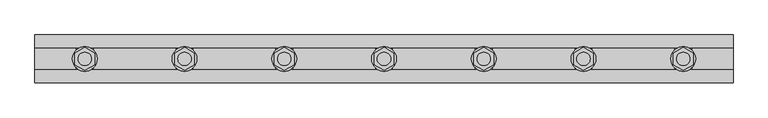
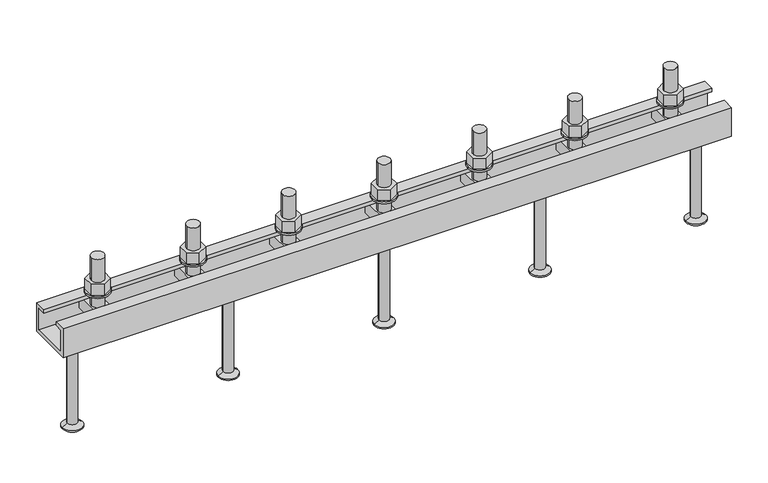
"""IFC4 building model written with IfcOpenShell, lengths in millimetres: fastener geometry, JTA-K JORDAHL® AnchorChannels : JTA-K L=1050 mm."""

import ifcopenshell
import ifcopenshell.guid

model = None  # the IFC model being written
_history = None  # IfcOwnerHistory: only IFC2X3 demands one
_inside = {}  # id of a spatial element -> (the spatial element, [elements in it])
_under = {}  # id of a project, library or spatial element -> (it, [spatial elements below it])
_declared = {}  # id of a project -> (the project, [libraries it declares])
_typed = {}  # id of a type object -> (the type object, [elements of that type])
_made_of = {}  # id of a material, layer set ... -> (it, [elements and type objects made of it])


def new_model(schema):
    """Start an empty IFC model of exactly this schema.

    Asked for "IFC4X3", IfcOpenShell would pick the latest addendum, in which some entities
    have other attributes; the version numbers below select the first issue.
    IFC2X3 requires an IfcOwnerHistory on every rooted entity: one is made here for all.
    """
    global model, _history
    if schema == "IFC4X3":
        model = ifcopenshell.file(schema_version=(4, 3, 0, 0))
    else:
        model = ifcopenshell.file(schema=schema)
    _inside.clear()
    _under.clear()
    _declared.clear()
    _typed.clear()
    _made_of.clear()
    _history = None
    if model.schema == "IFC2X3":
        org = make("IfcOrganization", Name="unknown")
        user = make(
            "IfcPersonAndOrganization",
            ThePerson=make("IfcPerson", FamilyName="unknown"),
            TheOrganization=org,
        )
        app = make(
            "IfcApplication",
            ApplicationDeveloper=org,
            Version="unknown",
            ApplicationFullName="unknown",
            ApplicationIdentifier="unknown",
        )
        _history = make(
            "IfcOwnerHistory",
            OwningUser=user,
            OwningApplication=app,
            ChangeAction="ADDED",
            CreationDate=0,
        )
    return model


def make(cls, **values):
    """One entity of the class cls with the attributes given. An attribute that is None is left unset."""
    return model.create_entity(
        cls, **{name: value for name, value in values.items() if value is not None}
    )


def rooted(cls, **values):
    """An entity with a GlobalId (a new one), such as an element, a storey or a relation."""
    return make(cls, GlobalId=ifcopenshell.guid.new(), OwnerHistory=_history, **values)


def si_unit(unit_type, name, prefix=None):
    """IfcSIUnit, for example si_unit("LENGTHUNIT", "METRE", prefix="MILLI")."""
    return make("IfcSIUnit", UnitType=unit_type, Prefix=prefix, Name=name)


def assignment(units):
    """IfcUnitAssignment: the units of a project."""
    return None if units is None else make("IfcUnitAssignment", Units=units)


def point(xyz):
    """IfcCartesianPoint."""
    return None if xyz is None else make("IfcCartesianPoint", Coordinates=xyz)


def direction(xyz):
    """IfcDirection."""
    return None if xyz is None else make("IfcDirection", DirectionRatios=xyz)


def frame(location, z_axis=None, x_axis=None):
    """IfcAxis2Placement3D, a coordinate frame: its origin and axes. An axis left out is left unset."""
    return make(
        "IfcAxis2Placement3D",
        Location=point(location),
        Axis=direction(z_axis),
        RefDirection=direction(x_axis),
    )


def frame_2d(location, x_axis=None):
    """IfcAxis2Placement2D, a coordinate frame in the plane: its origin and x axis."""
    return make(
        "IfcAxis2Placement2D", Location=point(location), RefDirection=direction(x_axis)
    )


def origin():
    """The frame at (0, 0, 0) with its axes left unset."""
    return frame((0.0, 0.0, 0.0))


def place(relative_to, where):
    """IfcLocalPlacement: puts the frame where relative to a parent placement (None: the world)."""
    return make(
        "IfcLocalPlacement", PlacementRelTo=relative_to, RelativePlacement=where
    )


def context(
    kind, dimensions, precision=None, world=None, true_north=None, identifier=None
):
    """IfcGeometricRepresentationContext, for example the 3D "Model" context."""
    return make(
        "IfcGeometricRepresentationContext",
        ContextIdentifier=identifier,
        ContextType=kind,
        CoordinateSpaceDimension=dimensions,
        Precision=precision,
        WorldCoordinateSystem=world,
        TrueNorth=true_north,
    )


def project(units=None, contexts=None):
    """IfcProject with its units and contexts."""
    return rooted(
        "IfcProject",
        Name="project",
        RepresentationContexts=contexts,
        UnitsInContext=assignment(units),
    )


def spatial(cls, under=None, at=None, **own):
    """A site, building, storey or space (cls), placed at a placement, below another one or the project."""
    s = rooted(cls, ObjectPlacement=at, **own)
    if under is not None:
        _under.setdefault(under.id(), (under, []))[1].append(s)
    return s


def polyline(points):
    """IfcPolyline through the points."""
    return make("IfcPolyline", Points=[point(p) for p in points])


def circle_curve(where, radius):
    """IfcCircle in the frame where."""
    return make("IfcCircle", Position=where, Radius=radius)


def trimmed(basis, trim1, trim2, sense, master):
    """IfcTrimmedCurve: the piece of a basis curve between two trims."""
    return make(
        "IfcTrimmedCurve",
        BasisCurve=basis,
        Trim1=trim1,
        Trim2=trim2,
        SenseAgreement=sense,
        MasterRepresentation=master,
    )


def segment(curve, same_sense, transition):
    """IfcCompositeCurveSegment."""
    return make(
        "IfcCompositeCurveSegment",
        Transition=transition,
        SameSense=same_sense,
        ParentCurve=curve,
    )


def composite_curve(segments, self_intersect=None):
    """IfcCompositeCurve: segments joined end to end."""
    return make("IfcCompositeCurve", Segments=segments, SelfIntersect=self_intersect)


def outline(outer, holes=None, kind="AREA"):
    """IfcArbitraryClosedProfileDef: a profile drawn as a closed curve; with holes, ...WithVoids."""
    if holes is None:
        return make("IfcArbitraryClosedProfileDef", ProfileType=kind, OuterCurve=outer)
    return make(
        "IfcArbitraryProfileDefWithVoids",
        ProfileType=kind,
        OuterCurve=outer,
        InnerCurves=holes,
    )


def extrude(swept, where, along, depth):
    """IfcExtrudedAreaSolid: the profile swept, set in the frame where, extruded along a direction by depth."""
    return make(
        "IfcExtrudedAreaSolid",
        SweptArea=swept,
        Position=where,
        ExtrudedDirection=direction(along),
        Depth=depth,
    )


def shape(context_of_items, identifier, shape_type, items):
    """IfcShapeRepresentation: the items that make up one representation, for example the "Body"."""
    return make(
        "IfcShapeRepresentation",
        ContextOfItems=context_of_items,
        RepresentationIdentifier=identifier,
        RepresentationType=shape_type,
        Items=items,
    )


def source(mapping_origin, context_of_items, identifier, shape_type, items):
    """IfcRepresentationMap: a shape defined once, which mapped items show again and again."""
    return make(
        "IfcRepresentationMap",
        MappingOrigin=mapping_origin,
        MappedRepresentation=shape(context_of_items, identifier, shape_type, items),
    )


def transform(
    local_origin,
    x_axis=None,
    y_axis=None,
    z_axis=None,
    scale=None,
    scale2=None,
    scale3=None,
    uniform=True,
):
    """IfcCartesianTransformationOperator3D, or its non-uniform kind. x_axis, y_axis, z_axis: its Axis1, 2, 3."""
    if uniform:
        return make(
            "IfcCartesianTransformationOperator3D",
            Axis1=direction(x_axis),
            Axis2=direction(y_axis),
            LocalOrigin=point(local_origin),
            Scale=scale,
            Axis3=direction(z_axis),
        )
    return make(
        "IfcCartesianTransformationOperator3DnonUniform",
        Axis1=direction(x_axis),
        Axis2=direction(y_axis),
        LocalOrigin=point(local_origin),
        Scale=scale,
        Axis3=direction(z_axis),
        Scale2=scale2,
        Scale3=scale3,
    )


def mapped(mapping_source, mapping_target):
    """IfcMappedItem: shows the shape of a source again, moved by a transform."""
    return make(
        "IfcMappedItem", MappingSource=mapping_source, MappingTarget=mapping_target
    )


def made_of(thing, what):
    """Note that an element or type object is made of a material, layer set ...; save() writes the relation."""
    if what is not None:
        _made_of.setdefault(what.id(), (what, []))[1].append(thing)
    return thing


def element(
    cls,
    number,
    at=None,
    inside=None,
    cuts=None,
    type_object=None,
    material=None,
    context=None,
    identifier="Body",
    shape_type=None,
    held_by="IfcProductDefinitionShape",
    body=None,
    shapes=None,
    **own,
):
    """One element of the class cls, such as IfcWall. Its Tag is "e" and its number.

    at: its placement. inside: the storey or other place that contains it. cuts: it is an
    opening in that element (IfcRelVoidsElement). A single representation is given by context,
    identifier, shape_type and body (its items); several are given by shapes. held_by: the class
    of the entity that holds the representations. save() writes the other relations.
    """
    e = rooted(cls, Tag="e%d" % number, ObjectPlacement=at, **own)
    if body is not None:
        shapes = [shape(context, identifier, shape_type, body)]
    if shapes is not None:
        e.Representation = make(held_by, Representations=shapes)
    if inside is not None:
        _inside.setdefault(inside.id(), (inside, []))[1].append(e)
    if cuts is not None:
        rooted(
            "IfcRelVoidsElement", RelatingBuildingElement=cuts, RelatedOpeningElement=e
        )
    if type_object is not None:
        _typed.setdefault(type_object.id(), (type_object, []))[1].append(e)
    return made_of(e, material)


def aggregate(whole, parts):
    """IfcRelAggregates: a whole, such as a stair, and the parts it consists of."""
    return rooted("IfcRelAggregates", RelatingObject=whole, RelatedObjects=parts)


def save(model, path):
    """Write the relations noted so far, then the file.

    IfcRelAggregates (storeys below a building ...), IfcRelContainedInSpatialStructure (elements
    in a storey), IfcRelDefinesByType, IfcRelAssociatesMaterial and IfcRelDeclares: one each for
    every whole, place, type object, material and project.
    """
    for whole, parts in _under.values():
        aggregate(whole, parts)
    for where, things in _inside.values():
        rooted(
            "IfcRelContainedInSpatialStructure",
            RelatedElements=things,
            RelatingStructure=where,
        )
    for kind, things in _typed.values():
        rooted("IfcRelDefinesByType", RelatedObjects=things, RelatingType=kind)
    for what, things in _made_of.values():
        rooted("IfcRelAssociatesMaterial", RelatedObjects=things, RelatingMaterial=what)
    for by, libraries in _declared.values():
        rooted("IfcRelDeclares", RelatingContext=by, RelatedDefinitions=libraries)
    model.write(path)


def plane_surface(at):
    """IfcPlane: the flat surface through the origin of the frame at, square to its z axis."""
    return make("IfcPlane", Position=at)


def cylinder_surface(at, radius):
    """IfcCylindricalSurface: all points at the distance radius from the z axis of the frame at."""
    return make("IfcCylindricalSurface", Position=at, Radius=radius)


def revolved_surface(curve, axis_point, axis_direction):
    """IfcSurfaceOfRevolution: the curve turned about the line through axis_point along axis_direction."""
    return make(
        "IfcSurfaceOfRevolution",
        SweptCurve=make("IfcArbitraryOpenProfileDef", ProfileType="CURVE", Curve=curve),
        AxisPosition=make("IfcAxis1Placement", Location=point(axis_point), Axis=direction(axis_direction)),
    )


def advanced_brep(points, edges, surfaces, faces):
    """IfcAdvancedBrep: a solid bounded by faces that lie on surfaces and meet in shared edges.

    An edge is (start, end): straight between two places in points (the first is 0);
    or (start, end, curve); or (start, end, curve, False) where it runs against its curve.
    A face is (place in surfaces, loops), or (place, loops, False) where it looks against
    its surface's normal. A loop lists edges by number (the first is 1), with a minus sign
    where the edge is run from its end to its start. The first loop is the outer one.
    """
    corners = [point(p) for p in points]
    vertices = [make("IfcVertexPoint", VertexGeometry=c) for c in corners]
    made = []
    for start, end, *more in edges:
        made.append(
            make(
                "IfcEdgeCurve",
                EdgeStart=vertices[start],
                EdgeEnd=vertices[end],
                EdgeGeometry=more[0] if more else make("IfcPolyline", Points=[corners[start], corners[end]]),
                SameSense=more[1] if len(more) > 1 else True,
            )
        )
    hull = []
    for where, loops, *sense in faces:
        bounds = []
        for j, loop in enumerate(loops):
            ring = [make("IfcOrientedEdge", EdgeElement=made[abs(k) - 1], Orientation=k > 0) for k in loop]
            bounds.append(
                make(
                    "IfcFaceOuterBound" if j == 0 else "IfcFaceBound",
                    Bound=make("IfcEdgeLoop", EdgeList=ring),
                    Orientation=True,
                )
            )
        hull.append(make("IfcAdvancedFace", Bounds=bounds, FaceSurface=surfaces[where], SameSense=sense[0] if sense else True))
    return make("IfcAdvancedBrep", Outer=make("IfcClosedShell", CfsFaces=hull))


def fastener_b5f35e6b(model_context):
    return source(origin(), model_context, "Body", "SolidModel", [
        extrude(outline(polyline([(825.0, -17.3205081), (810.0, -8.660254), (810.0, 8.660254), (825.0, 17.3205081), (840.0, 8.660254), (840.0, -8.660254), (825.0, -17.3205081)]), holes=[composite_curve([segment(trimmed(circle_curve(frame_2d((825.0, 0.0)), 10.0), [point((815.0, 0.0))], [point((835.0, 0.0))], True, "CARTESIAN"), True, "CONTINUOUS"), segment(trimmed(circle_curve(frame_2d((825.0, 0.0)), 10.0), [point((835.0, 0.0))], [point((815.0, 0.0))], True, "CARTESIAN"), True, "CONTINUOUS")], self_intersect=False)]), frame((0.0, 0.0, 18.0), z_axis=(0.0, 0.0, 1.0), x_axis=(1.0, 0.0, 0.0)), (0.0, 0.0, 1.0), 18.0),
        extrude(outline(composite_curve([segment(trimmed(circle_curve(frame_2d((825.0, 0.0)), 18.5), [point((806.5, 0.0))], [point((843.5, 0.0))], False, "CARTESIAN"), True, "CONTINUOUS"), segment(trimmed(circle_curve(frame_2d((825.0, 0.0)), 18.5), [point((843.5, 0.0))], [point((806.5, 0.0))], False, "CARTESIAN"), True, "CONTINUOUS")], self_intersect=False), holes=[composite_curve([segment(trimmed(circle_curve(frame_2d((825.0, 0.0)), 10.5), [point((814.5, 0.0))], [point((835.5, 0.0))], True, "CARTESIAN"), True, "CONTINUOUS"), segment(trimmed(circle_curve(frame_2d((825.0, 0.0)), 10.5), [point((835.5, 0.0))], [point((814.5, 0.0))], True, "CARTESIAN"), True, "CONTINUOUS")], self_intersect=False)]), frame((0.0, 0.0, 15.0), z_axis=(0.0, 0.0, 1.0), x_axis=(1.0, 0.0, 0.0)), (0.0, 0.0, 1.0), 3.0),
        extrude(outline(polyline([(675.0, -17.3205081), (660.0, -8.660254), (660.0, 8.660254), (675.0, 17.3205081), (690.0, 8.660254), (690.0, -8.660254), (675.0, -17.3205081)]), holes=[composite_curve([segment(trimmed(circle_curve(frame_2d((675.0, 0.0)), 10.0), [point((665.0, 0.0))], [point((685.0, 0.0))], True, "CARTESIAN"), True, "CONTINUOUS"), segment(trimmed(circle_curve(frame_2d((675.0, 0.0)), 10.0), [point((685.0, 0.0))], [point((665.0, 0.0))], True, "CARTESIAN"), True, "CONTINUOUS")], self_intersect=False)]), frame((0.0, 0.0, 18.0), z_axis=(0.0, 0.0, 1.0), x_axis=(1.0, 0.0, 0.0)), (0.0, 0.0, 1.0), 18.0),
        extrude(outline(composite_curve([segment(trimmed(circle_curve(frame_2d((675.0, 0.0)), 18.5), [point((656.5, 0.0))], [point((693.5, 0.0))], False, "CARTESIAN"), True, "CONTINUOUS"), segment(trimmed(circle_curve(frame_2d((675.0, 0.0)), 18.5), [point((693.5, 0.0))], [point((656.5, 0.0))], False, "CARTESIAN"), True, "CONTINUOUS")], self_intersect=False), holes=[composite_curve([segment(trimmed(circle_curve(frame_2d((675.0, 0.0)), 10.5), [point((664.5, 0.0))], [point((685.5, 0.0))], True, "CARTESIAN"), True, "CONTINUOUS"), segment(trimmed(circle_curve(frame_2d((675.0, 0.0)), 10.5), [point((685.5, 0.0))], [point((664.5, 0.0))], True, "CARTESIAN"), True, "CONTINUOUS")], self_intersect=False)]), frame((0.0, 0.0, 15.0), z_axis=(0.0, 0.0, 1.0), x_axis=(1.0, 0.0, 0.0)), (0.0, 0.0, 1.0), 3.0),
        extrude(outline(polyline([(525.0, -17.3205081), (510.0, -8.660254), (510.0, 8.660254), (525.0, 17.3205081), (540.0, 8.660254), (540.0, -8.660254), (525.0, -17.3205081)]), holes=[composite_curve([segment(trimmed(circle_curve(frame_2d((525.0, 0.0)), 10.0), [point((515.0, 0.0))], [point((535.0, 0.0))], True, "CARTESIAN"), True, "CONTINUOUS"), segment(trimmed(circle_curve(frame_2d((525.0, 0.0)), 10.0), [point((535.0, 0.0))], [point((515.0, 0.0))], True, "CARTESIAN"), True, "CONTINUOUS")], self_intersect=False)]), frame((0.0, 0.0, 18.0), z_axis=(0.0, 0.0, 1.0), x_axis=(1.0, 0.0, 0.0)), (0.0, 0.0, 1.0), 18.0),
        extrude(outline(composite_curve([segment(trimmed(circle_curve(frame_2d((525.0, 0.0)), 18.5), [point((506.5, 0.0))], [point((543.5, 0.0))], False, "CARTESIAN"), True, "CONTINUOUS"), segment(trimmed(circle_curve(frame_2d((525.0, 0.0)), 18.5), [point((543.5, 0.0))], [point((506.5, 0.0))], False, "CARTESIAN"), True, "CONTINUOUS")], self_intersect=False), holes=[composite_curve([segment(trimmed(circle_curve(frame_2d((525.0, 0.0)), 10.5), [point((514.5, 0.0))], [point((535.5, 0.0))], True, "CARTESIAN"), True, "CONTINUOUS"), segment(trimmed(circle_curve(frame_2d((525.0, 0.0)), 10.5), [point((535.5, 0.0))], [point((514.5, 0.0))], True, "CARTESIAN"), True, "CONTINUOUS")], self_intersect=False)]), frame((0.0, 0.0, 15.0), z_axis=(0.0, 0.0, 1.0), x_axis=(1.0, 0.0, 0.0)), (0.0, 0.0, 1.0), 3.0),
        extrude(outline(polyline([(375.0, -17.3205081), (360.0, -8.660254), (360.0, 8.660254), (375.0, 17.3205081), (390.0, 8.660254), (390.0, -8.660254), (375.0, -17.3205081)]), holes=[composite_curve([segment(trimmed(circle_curve(frame_2d((375.0, 0.0)), 10.0), [point((365.0, 0.0))], [point((385.0, 0.0))], True, "CARTESIAN"), True, "CONTINUOUS"), segment(trimmed(circle_curve(frame_2d((375.0, 0.0)), 10.0), [point((385.0, 0.0))], [point((365.0, 0.0))], True, "CARTESIAN"), True, "CONTINUOUS")], self_intersect=False)]), frame((0.0, 0.0, 18.0), z_axis=(0.0, 0.0, 1.0), x_axis=(1.0, 0.0, 0.0)), (0.0, 0.0, 1.0), 18.0),
        extrude(outline(composite_curve([segment(trimmed(circle_curve(frame_2d((375.0, 0.0)), 18.5), [point((356.5, 0.0))], [point((393.5, 0.0))], False, "CARTESIAN"), True, "CONTINUOUS"), segment(trimmed(circle_curve(frame_2d((375.0, 0.0)), 18.5), [point((393.5, 0.0))], [point((356.5, 0.0))], False, "CARTESIAN"), True, "CONTINUOUS")], self_intersect=False), holes=[composite_curve([segment(trimmed(circle_curve(frame_2d((375.0, 0.0)), 10.5), [point((364.5, 0.0))], [point((385.5, 0.0))], True, "CARTESIAN"), True, "CONTINUOUS"), segment(trimmed(circle_curve(frame_2d((375.0, 0.0)), 10.5), [point((385.5, 0.0))], [point((364.5, 0.0))], True, "CARTESIAN"), True, "CONTINUOUS")], self_intersect=False)]), frame((0.0, 0.0, 15.0), z_axis=(0.0, 0.0, 1.0), x_axis=(1.0, 0.0, 0.0)), (0.0, 0.0, 1.0), 3.0),
        extrude(outline(polyline([(225.0, -17.3205081), (210.0, -8.660254), (210.0, 8.660254), (225.0, 17.3205081), (240.0, 8.660254), (240.0, -8.660254), (225.0, -17.3205081)]), holes=[composite_curve([segment(trimmed(circle_curve(frame_2d((225.0, 0.0)), 10.0), [point((215.0, 0.0))], [point((235.0, 0.0))], True, "CARTESIAN"), True, "CONTINUOUS"), segment(trimmed(circle_curve(frame_2d((225.0, 0.0)), 10.0), [point((235.0, 0.0))], [point((215.0, 0.0))], True, "CARTESIAN"), True, "CONTINUOUS")], self_intersect=False)]), frame((0.0, 0.0, 18.0), z_axis=(0.0, 0.0, 1.0), x_axis=(1.0, 0.0, 0.0)), (0.0, 0.0, 1.0), 18.0),
        extrude(outline(composite_curve([segment(trimmed(circle_curve(frame_2d((225.0, 0.0)), 18.5), [point((206.5, 0.0))], [point((243.5, 0.0))], False, "CARTESIAN"), True, "CONTINUOUS"), segment(trimmed(circle_curve(frame_2d((225.0, 0.0)), 18.5), [point((243.5, 0.0))], [point((206.5, 0.0))], False, "CARTESIAN"), True, "CONTINUOUS")], self_intersect=False), holes=[composite_curve([segment(trimmed(circle_curve(frame_2d((225.0, 0.0)), 10.5), [point((214.5, 0.0))], [point((235.5, 0.0))], True, "CARTESIAN"), True, "CONTINUOUS"), segment(trimmed(circle_curve(frame_2d((225.0, 0.0)), 10.5), [point((235.5, 0.0))], [point((214.5, 0.0))], True, "CARTESIAN"), True, "CONTINUOUS")], self_intersect=False)]), frame((0.0, 0.0, 15.0), z_axis=(0.0, 0.0, 1.0), x_axis=(1.0, 0.0, 0.0)), (0.0, 0.0, 1.0), 3.0),
        advanced_brep(
        [(837.5, -29.0, -6.0), (837.5, -29.0, -26.0), (837.5, 29.0, -26.0), (837.5, 29.0, -6.0), (812.5, -29.0, -6.0), (812.5, 29.0, -6.0), (812.5, 29.0, -26.0), (812.5, -29.0, -26.0), (835.0, 0.0, -6.0), (815.0, 0.0, -6.0), (815.0, 0.0, 74.0), (835.0, 0.0, 74.0)],
        [
            (0, 1),
            (1, 2),
            (2, 3),
            (3, 0),
            (4, 5),
            (5, 6),
            (6, 7),
            (7, 4),
            (3, 5),
            (4, 0),
            (8, 9, circle_curve(frame((825.0, 0.0, -6.0), z_axis=(0.0, 0.0, -1.0), x_axis=(1.0, 0.0, 0.0)), 10.0)),
            (9, 8, circle_curve(frame((825.0, 0.0, -6.0), z_axis=(0.0, 0.0, -1.0), x_axis=(1.0, 0.0, 0.0)), 10.0)),
            (2, 6),
            (1, 7),
            (10, 11, circle_curve(frame((825.0, 0.0, 74.0), z_axis=(0.0, 0.0, 1.0), x_axis=(1.0, 0.0, 0.0)), 10.0)),
            (11, 10, circle_curve(frame((825.0, 0.0, 74.0), z_axis=(0.0, 0.0, 1.0), x_axis=(1.0, 0.0, 0.0)), 10.0)),
            (11, 8),
            (9, 10),
        ],
        [
            plane_surface(frame((837.5, 29.0, -6.0), z_axis=(1.0, 0.0, 0.0), x_axis=(0.0, 1.0, 0.0))),
            plane_surface(frame((812.5, 29.0, -6.0), z_axis=(-1.0, 0.0, 0.0), x_axis=(0.0, -1.0, 0.0))),
            plane_surface(frame((837.5, -29.0, -6.0), z_axis=(0.0, 0.0, 1.0), x_axis=(-1.0, 0.0, 0.0))),
            plane_surface(frame((837.5, 29.0, -6.0), z_axis=(0.0, 1.0, 0.0), x_axis=(-1.0, 0.0, 0.0))),
            plane_surface(frame((837.5, 29.0, -26.0), z_axis=(0.0, 0.0, -1.0), x_axis=(-1.0, 0.0, 0.0))),
            plane_surface(frame((837.5, -29.0, -26.0), z_axis=(0.0, -1.0, 0.0), x_axis=(-1.0, 0.0, 0.0))),
            plane_surface(frame((835.0, 0.0, 74.0), z_axis=(0.0, 0.0, 1.0), x_axis=(0.0, -1.0, 0.0))),
            cylinder_surface(frame((825.0, 0.0, -6.0), z_axis=(0.0, 0.0, 1.0), x_axis=(1.0, 0.0, 0.0)), 10.0),
        ],
        [
            (0, [[1, 2, 3, 4]]),
            (1, [[5, 6, 7, 8]]),
            (2, [[9, -5, 10, -4], [11, 12]]),
            (3, [[13, -6, -9, -3]]),
            (4, [[14, -7, -13, -2]]),
            (5, [[-10, -8, -14, -1]]),
            (6, [[15, 16]]),
            (7, [[17, -12, 18, -16]]),
            (7, [[-18, -11, -17, -15]]),
        ],
    ),
        advanced_brep(
        [(687.5, -29.0, -6.0), (687.5, -29.0, -26.0), (687.5, 29.0, -26.0), (687.5, 29.0, -6.0), (662.5, -29.0, -6.0), (662.5, 29.0, -6.0), (662.5, 29.0, -26.0), (662.5, -29.0, -26.0), (685.0, 0.0, -6.0), (665.0, 0.0, -6.0), (665.0, 0.0, 74.0), (685.0, 0.0, 74.0)],
        [
            (0, 1),
            (1, 2),
            (2, 3),
            (3, 0),
            (4, 5),
            (5, 6),
            (6, 7),
            (7, 4),
            (3, 5),
            (4, 0),
            (8, 9, circle_curve(frame((675.0, 0.0, -6.0), z_axis=(0.0, 0.0, -1.0), x_axis=(1.0, 0.0, 0.0)), 10.0)),
            (9, 8, circle_curve(frame((675.0, 0.0, -6.0), z_axis=(0.0, 0.0, -1.0), x_axis=(1.0, 0.0, 0.0)), 10.0)),
            (2, 6),
            (1, 7),
            (10, 11, circle_curve(frame((675.0, 0.0, 74.0), z_axis=(0.0, 0.0, 1.0), x_axis=(1.0, 0.0, 0.0)), 10.0)),
            (11, 10, circle_curve(frame((675.0, 0.0, 74.0), z_axis=(0.0, 0.0, 1.0), x_axis=(1.0, 0.0, 0.0)), 10.0)),
            (11, 8),
            (9, 10),
        ],
        [
            plane_surface(frame((687.5, 29.0, -6.0), z_axis=(1.0, 0.0, 0.0), x_axis=(0.0, 1.0, 0.0))),
            plane_surface(frame((662.5, 29.0, -6.0), z_axis=(-1.0, 0.0, 0.0), x_axis=(0.0, -1.0, 0.0))),
            plane_surface(frame((687.5, -29.0, -6.0), z_axis=(0.0, 0.0, 1.0), x_axis=(-1.0, 0.0, 0.0))),
            plane_surface(frame((687.5, 29.0, -6.0), z_axis=(0.0, 1.0, 0.0), x_axis=(-1.0, 0.0, 0.0))),
            plane_surface(frame((687.5, 29.0, -26.0), z_axis=(0.0, 0.0, -1.0), x_axis=(-1.0, 0.0, 0.0))),
            plane_surface(frame((687.5, -29.0, -26.0), z_axis=(0.0, -1.0, 0.0), x_axis=(-1.0, 0.0, 0.0))),
            plane_surface(frame((685.0, 0.0, 74.0), z_axis=(0.0, 0.0, 1.0), x_axis=(0.0, -1.0, 0.0))),
            cylinder_surface(frame((675.0, 0.0, -6.0), z_axis=(0.0, 0.0, 1.0), x_axis=(1.0, 0.0, 0.0)), 10.0),
        ],
        [
            (0, [[1, 2, 3, 4]]),
            (1, [[5, 6, 7, 8]]),
            (2, [[9, -5, 10, -4], [11, 12]]),
            (3, [[13, -6, -9, -3]]),
            (4, [[14, -7, -13, -2]]),
            (5, [[-10, -8, -14, -1]]),
            (6, [[15, 16]]),
            (7, [[17, -12, 18, -16]]),
            (7, [[-18, -11, -17, -15]]),
        ],
    ),
        advanced_brep(
        [(537.5, -29.0, -6.0), (537.5, -29.0, -26.0), (537.5, 29.0, -26.0), (537.5, 29.0, -6.0), (512.5, -29.0, -6.0), (512.5, 29.0, -6.0), (512.5, 29.0, -26.0), (512.5, -29.0, -26.0), (535.0, 0.0, -6.0), (515.0, 0.0, -6.0), (515.0, 0.0, 74.0), (535.0, 0.0, 74.0)],
        [
            (0, 1),
            (1, 2),
            (2, 3),
            (3, 0),
            (4, 5),
            (5, 6),
            (6, 7),
            (7, 4),
            (3, 5),
            (4, 0),
            (8, 9, circle_curve(frame((525.0, 0.0, -6.0), z_axis=(0.0, 0.0, -1.0), x_axis=(1.0, 0.0, 0.0)), 10.0)),
            (9, 8, circle_curve(frame((525.0, 0.0, -6.0), z_axis=(0.0, 0.0, -1.0), x_axis=(1.0, 0.0, 0.0)), 10.0)),
            (2, 6),
            (1, 7),
            (10, 11, circle_curve(frame((525.0, 0.0, 74.0), z_axis=(0.0, 0.0, 1.0), x_axis=(1.0, 0.0, 0.0)), 10.0)),
            (11, 10, circle_curve(frame((525.0, 0.0, 74.0), z_axis=(0.0, 0.0, 1.0), x_axis=(1.0, 0.0, 0.0)), 10.0)),
            (11, 8),
            (9, 10),
        ],
        [
            plane_surface(frame((537.5, 29.0, -6.0), z_axis=(1.0, 0.0, 0.0), x_axis=(0.0, 1.0, 0.0))),
            plane_surface(frame((512.5, 29.0, -6.0), z_axis=(-1.0, 0.0, 0.0), x_axis=(0.0, -1.0, 0.0))),
            plane_surface(frame((537.5, -29.0, -6.0), z_axis=(0.0, 0.0, 1.0), x_axis=(-1.0, 0.0, 0.0))),
            plane_surface(frame((537.5, 29.0, -6.0), z_axis=(0.0, 1.0, 0.0), x_axis=(-1.0, 0.0, 0.0))),
            plane_surface(frame((537.5, 29.0, -26.0), z_axis=(0.0, 0.0, -1.0), x_axis=(-1.0, 0.0, 0.0))),
            plane_surface(frame((537.5, -29.0, -26.0), z_axis=(0.0, -1.0, 0.0), x_axis=(-1.0, 0.0, 0.0))),
            plane_surface(frame((535.0, 0.0, 74.0), z_axis=(0.0, 0.0, 1.0), x_axis=(0.0, -1.0, 0.0))),
            cylinder_surface(frame((525.0, 0.0, -6.0), z_axis=(0.0, 0.0, 1.0), x_axis=(1.0, 0.0, 0.0)), 10.0),
        ],
        [
            (0, [[1, 2, 3, 4]]),
            (1, [[5, 6, 7, 8]]),
            (2, [[9, -5, 10, -4], [11, 12]]),
            (3, [[13, -6, -9, -3]]),
            (4, [[14, -7, -13, -2]]),
            (5, [[-10, -8, -14, -1]]),
            (6, [[15, 16]]),
            (7, [[17, -12, 18, -16]]),
            (7, [[-18, -11, -17, -15]]),
        ],
    ),
        advanced_brep(
        [(387.5, -29.0, -6.0), (387.5, -29.0, -26.0), (387.5, 29.0, -26.0), (387.5, 29.0, -6.0), (362.5, -29.0, -6.0), (362.5, 29.0, -6.0), (362.5, 29.0, -26.0), (362.5, -29.0, -26.0), (385.0, 0.0, -6.0), (365.0, 0.0, -6.0), (365.0, 0.0, 74.0), (385.0, 0.0, 74.0)],
        [
            (0, 1),
            (1, 2),
            (2, 3),
            (3, 0),
            (4, 5),
            (5, 6),
            (6, 7),
            (7, 4),
            (3, 5),
            (4, 0),
            (8, 9, circle_curve(frame((375.0, 0.0, -6.0), z_axis=(0.0, 0.0, -1.0), x_axis=(1.0, 0.0, 0.0)), 10.0)),
            (9, 8, circle_curve(frame((375.0, 0.0, -6.0), z_axis=(0.0, 0.0, -1.0), x_axis=(1.0, 0.0, 0.0)), 10.0)),
            (2, 6),
            (1, 7),
            (10, 11, circle_curve(frame((375.0, 0.0, 74.0), z_axis=(0.0, 0.0, 1.0), x_axis=(1.0, 0.0, 0.0)), 10.0)),
            (11, 10, circle_curve(frame((375.0, 0.0, 74.0), z_axis=(0.0, 0.0, 1.0), x_axis=(1.0, 0.0, 0.0)), 10.0)),
            (11, 8),
            (9, 10),
        ],
        [
            plane_surface(frame((387.5, 29.0, -6.0), z_axis=(1.0, 0.0, 0.0), x_axis=(0.0, 1.0, 0.0))),
            plane_surface(frame((362.5, 29.0, -6.0), z_axis=(-1.0, 0.0, 0.0), x_axis=(0.0, -1.0, 0.0))),
            plane_surface(frame((387.5, -29.0, -6.0), z_axis=(0.0, 0.0, 1.0), x_axis=(-1.0, 0.0, 0.0))),
            plane_surface(frame((387.5, 29.0, -6.0), z_axis=(0.0, 1.0, 0.0), x_axis=(-1.0, 0.0, 0.0))),
            plane_surface(frame((387.5, 29.0, -26.0), z_axis=(0.0, 0.0, -1.0), x_axis=(-1.0, 0.0, 0.0))),
            plane_surface(frame((387.5, -29.0, -26.0), z_axis=(0.0, -1.0, 0.0), x_axis=(-1.0, 0.0, 0.0))),
            plane_surface(frame((385.0, 0.0, 74.0), z_axis=(0.0, 0.0, 1.0), x_axis=(0.0, -1.0, 0.0))),
            cylinder_surface(frame((375.0, 0.0, -6.0), z_axis=(0.0, 0.0, 1.0), x_axis=(1.0, 0.0, 0.0)), 10.0),
        ],
        [
            (0, [[1, 2, 3, 4]]),
            (1, [[5, 6, 7, 8]]),
            (2, [[9, -5, 10, -4], [11, 12]]),
            (3, [[13, -6, -9, -3]]),
            (4, [[14, -7, -13, -2]]),
            (5, [[-10, -8, -14, -1]]),
            (6, [[15, 16]]),
            (7, [[17, -12, 18, -16]]),
            (7, [[-18, -11, -17, -15]]),
        ],
    ),
        advanced_brep(
        [(237.5, -29.0, -6.0), (237.5, -29.0, -26.0), (237.5, 29.0, -26.0), (237.5, 29.0, -6.0), (212.5, -29.0, -6.0), (212.5, 29.0, -6.0), (212.5, 29.0, -26.0), (212.5, -29.0, -26.0), (235.0, 0.0, -6.0), (215.0, 0.0, -6.0), (215.0, 0.0, 74.0), (235.0, 0.0, 74.0)],
        [
            (0, 1),
            (1, 2),
            (2, 3),
            (3, 0),
            (4, 5),
            (5, 6),
            (6, 7),
            (7, 4),
            (3, 5),
            (4, 0),
            (8, 9, circle_curve(frame((225.0, 0.0, -6.0), z_axis=(0.0, 0.0, -1.0), x_axis=(1.0, 0.0, 0.0)), 10.0)),
            (9, 8, circle_curve(frame((225.0, 0.0, -6.0), z_axis=(0.0, 0.0, -1.0), x_axis=(1.0, 0.0, 0.0)), 10.0)),
            (2, 6),
            (1, 7),
            (10, 11, circle_curve(frame((225.0, 0.0, 74.0), z_axis=(0.0, 0.0, 1.0), x_axis=(1.0, 0.0, 0.0)), 10.0)),
            (11, 10, circle_curve(frame((225.0, 0.0, 74.0), z_axis=(0.0, 0.0, 1.0), x_axis=(1.0, 0.0, 0.0)), 10.0)),
            (11, 8),
            (9, 10),
        ],
        [
            plane_surface(frame((237.5, 29.0, -6.0), z_axis=(1.0, 0.0, 0.0), x_axis=(0.0, 1.0, 0.0))),
            plane_surface(frame((212.5, 29.0, -6.0), z_axis=(-1.0, 0.0, 0.0), x_axis=(0.0, -1.0, 0.0))),
            plane_surface(frame((237.5, -29.0, -6.0), z_axis=(0.0, 0.0, 1.0), x_axis=(-1.0, 0.0, 0.0))),
            plane_surface(frame((237.5, 29.0, -6.0), z_axis=(0.0, 1.0, 0.0), x_axis=(-1.0, 0.0, 0.0))),
            plane_surface(frame((237.5, 29.0, -26.0), z_axis=(0.0, 0.0, -1.0), x_axis=(-1.0, 0.0, 0.0))),
            plane_surface(frame((237.5, -29.0, -26.0), z_axis=(0.0, -1.0, 0.0), x_axis=(-1.0, 0.0, 0.0))),
            plane_surface(frame((235.0, 0.0, 74.0), z_axis=(0.0, 0.0, 1.0), x_axis=(0.0, -1.0, 0.0))),
            cylinder_surface(frame((225.0, 0.0, -6.0), z_axis=(0.0, 0.0, 1.0), x_axis=(1.0, 0.0, 0.0)), 10.0),
        ],
        [
            (0, [[1, 2, 3, 4]]),
            (1, [[5, 6, 7, 8]]),
            (2, [[9, -5, 10, -4], [11, 12]]),
            (3, [[13, -6, -9, -3]]),
            (4, [[14, -7, -13, -2]]),
            (5, [[-10, -8, -14, -1]]),
            (6, [[15, 16]]),
            (7, [[17, -12, 18, -16]]),
            (7, [[-18, -11, -17, -15]]),
        ],
    ),
        advanced_brep(
        [(770.0, 0.0, -48.0), (747.0, 0.0, -48.0), (793.0, 0.0, -48.0), (754.5, 0.0, -195.0), (770.0, 0.0, -195.0), (785.5, 0.0, -195.0), (754.5, 0.0, -193.0), (785.5, 0.0, -193.0), (762.2, 0.0, -188.5544029), (777.8, 0.0, -188.5544029), (762.2, 0.0, -52.0), (777.8, 0.0, -52.0)],
        [
            (0, 1),
            (1, 2, circle_curve(frame((770.0, 0.0, -48.0), z_axis=(0.0, 0.0, 1.0), x_axis=(1.0, 0.0, 0.0)), 23.0)),
            (2, 0),
            (2, 1, circle_curve(frame((770.0, 0.0, -48.0), z_axis=(0.0, 0.0, 1.0), x_axis=(1.0, 0.0, 0.0)), 23.0)),
            (3, 4),
            (4, 5),
            (5, 3, circle_curve(frame((770.0, 0.0, -195.0), z_axis=(0.0, 0.0, -1.0), x_axis=(1.0, 0.0, 0.0)), 15.5)),
            (3, 5, circle_curve(frame((770.0, 0.0, -195.0), z_axis=(0.0, 0.0, -1.0), x_axis=(1.0, 0.0, 0.0)), 15.5)),
            (6, 3),
            (5, 7),
            (7, 6, circle_curve(frame((770.0, 0.0, -193.0), z_axis=(0.0, 0.0, -1.0), x_axis=(1.0, 0.0, 0.0)), 15.5)),
            (6, 7, circle_curve(frame((770.0, 0.0, -193.0), z_axis=(0.0, 0.0, -1.0), x_axis=(1.0, 0.0, 0.0)), 15.5)),
            (8, 6),
            (7, 9),
            (9, 8, circle_curve(frame((770.0, 0.0, -188.5544029), z_axis=(0.0, 0.0, -1.0), x_axis=(1.0, 0.0, 0.0)), 7.8)),
            (8, 9, circle_curve(frame((770.0, 0.0, -188.5544029), z_axis=(0.0, 0.0, -1.0), x_axis=(1.0, 0.0, 0.0)), 7.8)),
            (10, 8),
            (9, 11),
            (11, 10, circle_curve(frame((770.0, 0.0, -52.0), z_axis=(0.0, 0.0, -1.0), x_axis=(1.0, 0.0, 0.0)), 7.8)),
            (10, 11, circle_curve(frame((770.0, 0.0, -52.0), z_axis=(0.0, 0.0, -1.0), x_axis=(1.0, 0.0, 0.0)), 7.8)),
            (1, 10),
            (11, 2),
        ],
        [
            plane_surface(frame((770.0, 0.0, -48.0), z_axis=(0.0, 0.0, 1.0), x_axis=(1.0, 0.0, 0.0))),
            plane_surface(frame((770.0, 0.0, -195.0), z_axis=(0.0, 0.0, -1.0), x_axis=(1.0, 0.0, 0.0))),
            cylinder_surface(frame((770.0, 0.0, 2361.3150031), z_axis=(0.0, 0.0, 1.0), x_axis=(1.0, 0.0, 0.0)), 15.5),
            revolved_surface(polyline([(785.5, 0.0, -193.0), (777.8, 0.0, -188.5544029)]), (770.0, 0.0, 2361.3150031), (0.0, 0.0, 1.0)),
            cylinder_surface(frame((770.0, 0.0, 2361.3150031), z_axis=(0.0, 0.0, 1.0), x_axis=(1.0, 0.0, 0.0)), 7.8),
            revolved_surface(polyline([(777.8, 0.0, -52.0), (793.0, 0.0, -48.0)]), (770.0, 0.0, 2361.3150031), (0.0, 0.0, 1.0)),
        ],
        [
            (0, [[1, 2, 3]]),
            (0, [[-3, 4, -1]]),
            (1, [[5, 6, 7]]),
            (1, [[-6, -5, 8]]),
            (2, [[9, -7, 10, 11]]),
            (2, [[-10, -8, -9, 12]]),
            (3, [[13, -11, 14, 15]]),
            (3, [[-14, -12, -13, 16]]),
            (4, [[17, -15, 18, 19]]),
            (4, [[-18, -16, -17, 20]]),
            (5, [[21, -19, 22, -2]]),
            (5, [[-22, -20, -21, -4]]),
        ],
    ),
        advanced_brep(
        [(525.0, 0.0, -48.0), (502.0, 0.0, -48.0), (548.0, 0.0, -48.0), (509.5, 0.0, -195.0), (525.0, 0.0, -195.0), (540.5, 0.0, -195.0), (509.5, 0.0, -193.0), (540.5, 0.0, -193.0), (517.2, 0.0, -188.5544029), (532.8, 0.0, -188.5544029), (517.2, 0.0, -52.0), (532.8, 0.0, -52.0)],
        [
            (0, 1),
            (1, 2, circle_curve(frame((525.0, 0.0, -48.0), z_axis=(0.0, 0.0, 1.0), x_axis=(1.0, 0.0, 0.0)), 23.0)),
            (2, 0),
            (2, 1, circle_curve(frame((525.0, 0.0, -48.0), z_axis=(0.0, 0.0, 1.0), x_axis=(1.0, 0.0, 0.0)), 23.0)),
            (3, 4),
            (4, 5),
            (5, 3, circle_curve(frame((525.0, 0.0, -195.0), z_axis=(0.0, 0.0, -1.0), x_axis=(1.0, 0.0, 0.0)), 15.5)),
            (3, 5, circle_curve(frame((525.0, 0.0, -195.0), z_axis=(0.0, 0.0, -1.0), x_axis=(1.0, 0.0, 0.0)), 15.5)),
            (6, 3),
            (5, 7),
            (7, 6, circle_curve(frame((525.0, 0.0, -193.0), z_axis=(0.0, 0.0, -1.0), x_axis=(1.0, 0.0, 0.0)), 15.5)),
            (6, 7, circle_curve(frame((525.0, 0.0, -193.0), z_axis=(0.0, 0.0, -1.0), x_axis=(1.0, 0.0, 0.0)), 15.5)),
            (8, 6),
            (7, 9),
            (9, 8, circle_curve(frame((525.0, 0.0, -188.5544029), z_axis=(0.0, 0.0, -1.0), x_axis=(1.0, 0.0, 0.0)), 7.8)),
            (8, 9, circle_curve(frame((525.0, 0.0, -188.5544029), z_axis=(0.0, 0.0, -1.0), x_axis=(1.0, 0.0, 0.0)), 7.8)),
            (10, 8),
            (9, 11),
            (11, 10, circle_curve(frame((525.0, 0.0, -52.0), z_axis=(0.0, 0.0, -1.0), x_axis=(1.0, 0.0, 0.0)), 7.8)),
            (10, 11, circle_curve(frame((525.0, 0.0, -52.0), z_axis=(0.0, 0.0, -1.0), x_axis=(1.0, 0.0, 0.0)), 7.8)),
            (1, 10),
            (11, 2),
        ],
        [
            plane_surface(frame((525.0, 0.0, -48.0), z_axis=(0.0, 0.0, 1.0), x_axis=(1.0, 0.0, 0.0))),
            plane_surface(frame((525.0, 0.0, -195.0), z_axis=(0.0, 0.0, -1.0), x_axis=(1.0, 0.0, 0.0))),
            cylinder_surface(frame((525.0, 0.0, 2361.3150031), z_axis=(0.0, 0.0, 1.0), x_axis=(1.0, 0.0, 0.0)), 15.5),
            revolved_surface(polyline([(540.5, 0.0, -193.0), (532.8, 0.0, -188.5544029)]), (525.0, 0.0, 2361.3150031), (0.0, 0.0, 1.0)),
            cylinder_surface(frame((525.0, 0.0, 2361.3150031), z_axis=(0.0, 0.0, 1.0), x_axis=(1.0, 0.0, 0.0)), 7.8),
            revolved_surface(polyline([(532.8, 0.0, -52.0), (548.0, 0.0, -48.0)]), (525.0, 0.0, 2361.3150031), (0.0, 0.0, 1.0)),
        ],
        [
            (0, [[1, 2, 3]]),
            (0, [[-3, 4, -1]]),
            (1, [[5, 6, 7]]),
            (1, [[-6, -5, 8]]),
            (2, [[9, -7, 10, 11]]),
            (2, [[-10, -8, -9, 12]]),
            (3, [[13, -11, 14, 15]]),
            (3, [[-14, -12, -13, 16]]),
            (4, [[17, -15, 18, 19]]),
            (4, [[-18, -16, -17, 20]]),
            (5, [[21, -19, 22, -2]]),
            (5, [[-22, -20, -21, -4]]),
        ],
    ),
        advanced_brep(
        [(280.0, 0.0, -48.0), (257.0, 0.0, -48.0), (303.0, 0.0, -48.0), (264.5, 0.0, -195.0), (280.0, 0.0, -195.0), (295.5, 0.0, -195.0), (264.5, 0.0, -193.0), (295.5, 0.0, -193.0), (272.2, 0.0, -188.5544029), (287.8, 0.0, -188.5544029), (272.2, 0.0, -52.0), (287.8, 0.0, -52.0)],
        [
            (0, 1),
            (1, 2, circle_curve(frame((280.0, 0.0, -48.0), z_axis=(0.0, 0.0, 1.0), x_axis=(1.0, 0.0, 0.0)), 23.0)),
            (2, 0),
            (2, 1, circle_curve(frame((280.0, 0.0, -48.0), z_axis=(0.0, 0.0, 1.0), x_axis=(1.0, 0.0, 0.0)), 23.0)),
            (3, 4),
            (4, 5),
            (5, 3, circle_curve(frame((280.0, 0.0, -195.0), z_axis=(0.0, 0.0, -1.0), x_axis=(1.0, 0.0, 0.0)), 15.5)),
            (3, 5, circle_curve(frame((280.0, 0.0, -195.0), z_axis=(0.0, 0.0, -1.0), x_axis=(1.0, 0.0, 0.0)), 15.5)),
            (6, 3),
            (5, 7),
            (7, 6, circle_curve(frame((280.0, 0.0, -193.0), z_axis=(0.0, 0.0, -1.0), x_axis=(1.0, 0.0, 0.0)), 15.5)),
            (6, 7, circle_curve(frame((280.0, 0.0, -193.0), z_axis=(0.0, 0.0, -1.0), x_axis=(1.0, 0.0, 0.0)), 15.5)),
            (8, 6),
            (7, 9),
            (9, 8, circle_curve(frame((280.0, 0.0, -188.5544029), z_axis=(0.0, 0.0, -1.0), x_axis=(1.0, 0.0, 0.0)), 7.8)),
            (8, 9, circle_curve(frame((280.0, 0.0, -188.5544029), z_axis=(0.0, 0.0, -1.0), x_axis=(1.0, 0.0, 0.0)), 7.8)),
            (10, 8),
            (9, 11),
            (11, 10, circle_curve(frame((280.0, 0.0, -52.0), z_axis=(0.0, 0.0, -1.0), x_axis=(1.0, 0.0, 0.0)), 7.8)),
            (10, 11, circle_curve(frame((280.0, 0.0, -52.0), z_axis=(0.0, 0.0, -1.0), x_axis=(1.0, 0.0, 0.0)), 7.8)),
            (1, 10),
            (11, 2),
        ],
        [
            plane_surface(frame((280.0, 0.0, -48.0), z_axis=(0.0, 0.0, 1.0), x_axis=(1.0, 0.0, 0.0))),
            plane_surface(frame((280.0, 0.0, -195.0), z_axis=(0.0, 0.0, -1.0), x_axis=(1.0, 0.0, 0.0))),
            cylinder_surface(frame((280.0, 0.0, 2361.3150031), z_axis=(0.0, 0.0, 1.0), x_axis=(1.0, 0.0, 0.0)), 15.5),
            revolved_surface(polyline([(295.5, 0.0, -193.0), (287.8, 0.0, -188.5544029)]), (280.0, 0.0, 2361.3150031), (0.0, 0.0, 1.0)),
            cylinder_surface(frame((280.0, 0.0, 2361.3150031), z_axis=(0.0, 0.0, 1.0), x_axis=(1.0, 0.0, 0.0)), 7.8),
            revolved_surface(polyline([(287.8, 0.0, -52.0), (303.0, 0.0, -48.0)]), (280.0, 0.0, 2361.3150031), (0.0, 0.0, 1.0)),
        ],
        [
            (0, [[1, 2, 3]]),
            (0, [[-3, 4, -1]]),
            (1, [[5, 6, 7]]),
            (1, [[-6, -5, 8]]),
            (2, [[9, -7, 10, 11]]),
            (2, [[-10, -8, -9, 12]]),
            (3, [[13, -11, 14, 15]]),
            (3, [[-14, -12, -13, 16]]),
            (4, [[17, -15, 18, 19]]),
            (4, [[-18, -16, -17, 20]]),
            (5, [[21, -19, 22, -2]]),
            (5, [[-22, -20, -21, -4]]),
        ],
    ),
        extrude(outline(polyline([(975.0, -17.3205081), (960.0, -8.660254), (960.0, 8.660254), (975.0, 17.3205081), (990.0, 8.660254), (990.0, -8.660254), (975.0, -17.3205081)]), holes=[composite_curve([segment(trimmed(circle_curve(frame_2d((975.0, 0.0)), 10.0), [point((965.0, 0.0))], [point((985.0, 0.0))], True, "CARTESIAN"), True, "CONTINUOUS"), segment(trimmed(circle_curve(frame_2d((975.0, 0.0)), 10.0), [point((985.0, 0.0))], [point((965.0, 0.0))], True, "CARTESIAN"), True, "CONTINUOUS")], self_intersect=False)]), frame((0.0, 0.0, 18.0), z_axis=(0.0, 0.0, 1.0), x_axis=(1.0, 0.0, 0.0)), (0.0, 0.0, 1.0), 18.0),
        extrude(outline(composite_curve([segment(trimmed(circle_curve(frame_2d((975.0, 0.0)), 18.5), [point((956.5, 0.0))], [point((993.5, 0.0))], False, "CARTESIAN"), True, "CONTINUOUS"), segment(trimmed(circle_curve(frame_2d((975.0, 0.0)), 18.5), [point((993.5, 0.0))], [point((956.5, 0.0))], False, "CARTESIAN"), True, "CONTINUOUS")], self_intersect=False), holes=[composite_curve([segment(trimmed(circle_curve(frame_2d((975.0, 0.0)), 10.5), [point((964.5, 0.0))], [point((985.5, 0.0))], True, "CARTESIAN"), True, "CONTINUOUS"), segment(trimmed(circle_curve(frame_2d((975.0, 0.0)), 10.5), [point((985.5, 0.0))], [point((964.5, 0.0))], True, "CARTESIAN"), True, "CONTINUOUS")], self_intersect=False)]), frame((0.0, 0.0, 15.0), z_axis=(0.0, 0.0, 1.0), x_axis=(1.0, 0.0, 0.0)), (0.0, 0.0, 1.0), 3.0),
        extrude(outline(polyline([(75.0, -17.3205081), (60.0, -8.660254), (60.0, 8.660254), (75.0, 17.3205081), (90.0, 8.660254), (90.0, -8.660254), (75.0, -17.3205081)]), holes=[composite_curve([segment(trimmed(circle_curve(frame_2d((75.0, 0.0)), 10.0), [point((65.0, 0.0))], [point((85.0, 0.0))], True, "CARTESIAN"), True, "CONTINUOUS"), segment(trimmed(circle_curve(frame_2d((75.0, 0.0)), 10.0), [point((85.0, 0.0))], [point((65.0, 0.0))], True, "CARTESIAN"), True, "CONTINUOUS")], self_intersect=False)]), frame((0.0, 0.0, 18.0), z_axis=(0.0, 0.0, 1.0), x_axis=(1.0, 0.0, 0.0)), (0.0, 0.0, 1.0), 18.0),
        extrude(outline(composite_curve([segment(trimmed(circle_curve(frame_2d((75.0, 0.0)), 18.5), [point((56.5, 0.0))], [point((93.5, 0.0))], False, "CARTESIAN"), True, "CONTINUOUS"), segment(trimmed(circle_curve(frame_2d((75.0, 0.0)), 18.5), [point((93.5, 0.0))], [point((56.5, 0.0))], False, "CARTESIAN"), True, "CONTINUOUS")], self_intersect=False), holes=[composite_curve([segment(trimmed(circle_curve(frame_2d((75.0, 0.0)), 10.5), [point((64.5, 0.0))], [point((85.5, 0.0))], True, "CARTESIAN"), True, "CONTINUOUS"), segment(trimmed(circle_curve(frame_2d((75.0, 0.0)), 10.5), [point((85.5, 0.0))], [point((64.5, 0.0))], True, "CARTESIAN"), True, "CONTINUOUS")], self_intersect=False)]), frame((0.0, 0.0, 15.0), z_axis=(0.0, 0.0, 1.0), x_axis=(1.0, 0.0, 0.0)), (0.0, 0.0, 1.0), 3.0),
        advanced_brep(
        [(987.5, -29.0, -6.0), (987.5, -29.0, -26.0), (987.5, 29.0, -26.0), (987.5, 29.0, -6.0), (962.5, -29.0, -6.0), (962.5, 29.0, -6.0), (962.5, 29.0, -26.0), (962.5, -29.0, -26.0), (985.0, 0.0, -6.0), (965.0, 0.0, -6.0), (965.0, 0.0, 74.0), (985.0, 0.0, 74.0)],
        [
            (0, 1),
            (1, 2),
            (2, 3),
            (3, 0),
            (4, 5),
            (5, 6),
            (6, 7),
            (7, 4),
            (3, 5),
            (4, 0),
            (8, 9, circle_curve(frame((975.0, 0.0, -6.0), z_axis=(0.0, 0.0, -1.0), x_axis=(1.0, 0.0, 0.0)), 10.0)),
            (9, 8, circle_curve(frame((975.0, 0.0, -6.0), z_axis=(0.0, 0.0, -1.0), x_axis=(1.0, 0.0, 0.0)), 10.0)),
            (2, 6),
            (1, 7),
            (10, 11, circle_curve(frame((975.0, 0.0, 74.0), z_axis=(0.0, 0.0, 1.0), x_axis=(1.0, 0.0, 0.0)), 10.0)),
            (11, 10, circle_curve(frame((975.0, 0.0, 74.0), z_axis=(0.0, 0.0, 1.0), x_axis=(1.0, 0.0, 0.0)), 10.0)),
            (11, 8),
            (9, 10),
        ],
        [
            plane_surface(frame((987.5, 29.0, -6.0), z_axis=(1.0, 0.0, 0.0), x_axis=(0.0, 1.0, 0.0))),
            plane_surface(frame((962.5, 29.0, -6.0), z_axis=(-1.0, 0.0, 0.0), x_axis=(0.0, -1.0, 0.0))),
            plane_surface(frame((987.5, -29.0, -6.0), z_axis=(0.0, 0.0, 1.0), x_axis=(-1.0, 0.0, 0.0))),
            plane_surface(frame((987.5, 29.0, -6.0), z_axis=(0.0, 1.0, 0.0), x_axis=(-1.0, 0.0, 0.0))),
            plane_surface(frame((987.5, 29.0, -26.0), z_axis=(0.0, 0.0, -1.0), x_axis=(-1.0, 0.0, 0.0))),
            plane_surface(frame((987.5, -29.0, -26.0), z_axis=(0.0, -1.0, 0.0), x_axis=(-1.0, 0.0, 0.0))),
            plane_surface(frame((985.0, 0.0, 74.0), z_axis=(0.0, 0.0, 1.0), x_axis=(0.0, -1.0, 0.0))),
            cylinder_surface(frame((975.0, 0.0, -6.0), z_axis=(0.0, 0.0, 1.0), x_axis=(1.0, 0.0, 0.0)), 10.0),
        ],
        [
            (0, [[1, 2, 3, 4]]),
            (1, [[5, 6, 7, 8]]),
            (2, [[9, -5, 10, -4], [11, 12]]),
            (3, [[13, -6, -9, -3]]),
            (4, [[14, -7, -13, -2]]),
            (5, [[-10, -8, -14, -1]]),
            (6, [[15, 16]]),
            (7, [[17, -12, 18, -16]]),
            (7, [[-18, -11, -17, -15]]),
        ],
    ),
        advanced_brep(
        [(87.5, -29.0, -6.0), (87.5, -29.0, -26.0), (87.5, 29.0, -26.0), (87.5, 29.0, -6.0), (62.5, -29.0, -6.0), (62.5, 29.0, -6.0), (62.5, 29.0, -26.0), (62.5, -29.0, -26.0), (85.0, 0.0, -6.0), (65.0, 0.0, -6.0), (65.0, 0.0, 74.0), (85.0, 0.0, 74.0)],
        [
            (0, 1),
            (1, 2),
            (2, 3),
            (3, 0),
            (4, 5),
            (5, 6),
            (6, 7),
            (7, 4),
            (3, 5),
            (4, 0),
            (8, 9, circle_curve(frame((75.0, 0.0, -6.0), z_axis=(0.0, 0.0, -1.0), x_axis=(1.0, 0.0, 0.0)), 10.0)),
            (9, 8, circle_curve(frame((75.0, 0.0, -6.0), z_axis=(0.0, 0.0, -1.0), x_axis=(1.0, 0.0, 0.0)), 10.0)),
            (2, 6),
            (1, 7),
            (10, 11, circle_curve(frame((75.0, 0.0, 74.0), z_axis=(0.0, 0.0, 1.0), x_axis=(1.0, 0.0, 0.0)), 10.0)),
            (11, 10, circle_curve(frame((75.0, 0.0, 74.0), z_axis=(0.0, 0.0, 1.0), x_axis=(1.0, 0.0, 0.0)), 10.0)),
            (11, 8),
            (9, 10),
        ],
        [
            plane_surface(frame((87.5, 29.0, -6.0), z_axis=(1.0, 0.0, 0.0), x_axis=(0.0, 1.0, 0.0))),
            plane_surface(frame((62.5, 29.0, -6.0), z_axis=(-1.0, 0.0, 0.0), x_axis=(0.0, -1.0, 0.0))),
            plane_surface(frame((87.5, -29.0, -6.0), z_axis=(0.0, 0.0, 1.0), x_axis=(-1.0, 0.0, 0.0))),
            plane_surface(frame((87.5, 29.0, -6.0), z_axis=(0.0, 1.0, 0.0), x_axis=(-1.0, 0.0, 0.0))),
            plane_surface(frame((87.5, 29.0, -26.0), z_axis=(0.0, 0.0, -1.0), x_axis=(-1.0, 0.0, 0.0))),
            plane_surface(frame((87.5, -29.0, -26.0), z_axis=(0.0, -1.0, 0.0), x_axis=(-1.0, 0.0, 0.0))),
            plane_surface(frame((85.0, 0.0, 74.0), z_axis=(0.0, 0.0, 1.0), x_axis=(0.0, -1.0, 0.0))),
            cylinder_surface(frame((75.0, 0.0, -6.0), z_axis=(0.0, 0.0, 1.0), x_axis=(1.0, 0.0, 0.0)), 10.0),
        ],
        [
            (0, [[1, 2, 3, 4]]),
            (1, [[5, 6, 7, 8]]),
            (2, [[9, -5, 10, -4], [11, 12]]),
            (3, [[13, -6, -9, -3]]),
            (4, [[14, -7, -13, -2]]),
            (5, [[-10, -8, -14, -1]]),
            (6, [[15, 16]]),
            (7, [[17, -12, 18, -16]]),
            (7, [[-18, -11, -17, -15]]),
        ],
    ),
        advanced_brep(
        [(1015.0, 0.0, -48.0), (992.0, 0.0, -48.0), (1038.0, 0.0, -48.0), (999.5, 0.0, -195.0), (1015.0, 0.0, -195.0), (1030.5, 0.0, -195.0), (999.5, 0.0, -193.0), (1030.5, 0.0, -193.0), (1007.2, 0.0, -188.5544029), (1022.8, 0.0, -188.5544029), (1007.2, 0.0, -52.0), (1022.8, 0.0, -52.0)],
        [
            (0, 1),
            (1, 2, circle_curve(frame((1015.0, 0.0, -48.0), z_axis=(0.0, 0.0, 1.0), x_axis=(1.0, 0.0, 0.0)), 23.0)),
            (2, 0),
            (2, 1, circle_curve(frame((1015.0, 0.0, -48.0), z_axis=(0.0, 0.0, 1.0), x_axis=(1.0, 0.0, 0.0)), 23.0)),
            (3, 4),
            (4, 5),
            (5, 3, circle_curve(frame((1015.0, 0.0, -195.0), z_axis=(0.0, 0.0, -1.0), x_axis=(1.0, 0.0, 0.0)), 15.5)),
            (3, 5, circle_curve(frame((1015.0, 0.0, -195.0), z_axis=(0.0, 0.0, -1.0), x_axis=(1.0, 0.0, 0.0)), 15.5)),
            (6, 3),
            (5, 7),
            (7, 6, circle_curve(frame((1015.0, 0.0, -193.0), z_axis=(0.0, 0.0, -1.0), x_axis=(1.0, 0.0, 0.0)), 15.5)),
            (6, 7, circle_curve(frame((1015.0, 0.0, -193.0), z_axis=(0.0, 0.0, -1.0), x_axis=(1.0, 0.0, 0.0)), 15.5)),
            (8, 6),
            (7, 9),
            (9, 8, circle_curve(frame((1015.0, 0.0, -188.5544029), z_axis=(0.0, 0.0, -1.0), x_axis=(1.0, 0.0, 0.0)), 7.8)),
            (8, 9, circle_curve(frame((1015.0, 0.0, -188.5544029), z_axis=(0.0, 0.0, -1.0), x_axis=(1.0, 0.0, 0.0)), 7.8)),
            (10, 8),
            (9, 11),
            (11, 10, circle_curve(frame((1015.0, 0.0, -52.0), z_axis=(0.0, 0.0, -1.0), x_axis=(1.0, 0.0, 0.0)), 7.8)),
            (10, 11, circle_curve(frame((1015.0, 0.0, -52.0), z_axis=(0.0, 0.0, -1.0), x_axis=(1.0, 0.0, 0.0)), 7.8)),
            (1, 10),
            (11, 2),
        ],
        [
            plane_surface(frame((1015.0, 0.0, -48.0), z_axis=(0.0, 0.0, 1.0), x_axis=(1.0, 0.0, 0.0))),
            plane_surface(frame((1015.0, 0.0, -195.0), z_axis=(0.0, 0.0, -1.0), x_axis=(1.0, 0.0, 0.0))),
            cylinder_surface(frame((1015.0, 0.0, 2361.3150031), z_axis=(0.0, 0.0, 1.0), x_axis=(1.0, 0.0, 0.0)), 15.5),
            revolved_surface(polyline([(1030.5, 0.0, -193.0), (1022.8, 0.0, -188.5544029)]), (1015.0, 0.0, 2361.3150031), (0.0, 0.0, 1.0)),
            cylinder_surface(frame((1015.0, 0.0, 2361.3150031), z_axis=(0.0, 0.0, 1.0), x_axis=(1.0, 0.0, 0.0)), 7.8),
            revolved_surface(polyline([(1022.8, 0.0, -52.0), (1038.0, 0.0, -48.0)]), (1015.0, 0.0, 2361.3150031), (0.0, 0.0, 1.0)),
        ],
        [
            (0, [[1, 2, 3]]),
            (0, [[-3, 4, -1]]),
            (1, [[5, 6, 7]]),
            (1, [[-6, -5, 8]]),
            (2, [[9, -7, 10, 11]]),
            (2, [[-10, -8, -9, 12]]),
            (3, [[13, -11, 14, 15]]),
            (3, [[-14, -12, -13, 16]]),
            (4, [[17, -15, 18, 19]]),
            (4, [[-18, -16, -17, 20]]),
            (5, [[21, -19, 22, -2]]),
            (5, [[-22, -20, -21, -4]]),
        ],
    ),
        advanced_brep(
        [(35.0, 0.0, -48.0), (12.0, 0.0, -48.0), (58.0, 0.0, -48.0), (19.5, 0.0, -195.0), (35.0, 0.0, -195.0), (50.5, 0.0, -195.0), (19.5, 0.0, -193.0), (50.5, 0.0, -193.0), (27.2, 0.0, -188.5544029), (42.8, 0.0, -188.5544029), (27.2, 0.0, -52.0), (42.8, 0.0, -52.0)],
        [
            (0, 1),
            (1, 2, circle_curve(frame((35.0, 0.0, -48.0), z_axis=(0.0, 0.0, 1.0), x_axis=(1.0, 0.0, 0.0)), 23.0)),
            (2, 0),
            (2, 1, circle_curve(frame((35.0, 0.0, -48.0), z_axis=(0.0, 0.0, 1.0), x_axis=(1.0, 0.0, 0.0)), 23.0)),
            (3, 4),
            (4, 5),
            (5, 3, circle_curve(frame((35.0, 0.0, -195.0), z_axis=(0.0, 0.0, -1.0), x_axis=(1.0, 0.0, 0.0)), 15.5)),
            (3, 5, circle_curve(frame((35.0, 0.0, -195.0), z_axis=(0.0, 0.0, -1.0), x_axis=(1.0, 0.0, 0.0)), 15.5)),
            (6, 3),
            (5, 7),
            (7, 6, circle_curve(frame((35.0, 0.0, -193.0), z_axis=(0.0, 0.0, -1.0), x_axis=(1.0, 0.0, 0.0)), 15.5)),
            (6, 7, circle_curve(frame((35.0, 0.0, -193.0), z_axis=(0.0, 0.0, -1.0), x_axis=(1.0, 0.0, 0.0)), 15.5)),
            (8, 6),
            (7, 9),
            (9, 8, circle_curve(frame((35.0, 0.0, -188.5544029), z_axis=(0.0, 0.0, -1.0), x_axis=(1.0, 0.0, 0.0)), 7.8)),
            (8, 9, circle_curve(frame((35.0, 0.0, -188.5544029), z_axis=(0.0, 0.0, -1.0), x_axis=(1.0, 0.0, 0.0)), 7.8)),
            (10, 8),
            (9, 11),
            (11, 10, circle_curve(frame((35.0, 0.0, -52.0), z_axis=(0.0, 0.0, -1.0), x_axis=(1.0, 0.0, 0.0)), 7.8)),
            (10, 11, circle_curve(frame((35.0, 0.0, -52.0), z_axis=(0.0, 0.0, -1.0), x_axis=(1.0, 0.0, 0.0)), 7.8)),
            (1, 10),
            (11, 2),
        ],
        [
            plane_surface(frame((35.0, 0.0, -48.0), z_axis=(0.0, 0.0, 1.0), x_axis=(1.0, 0.0, 0.0))),
            plane_surface(frame((35.0, 0.0, -195.0), z_axis=(0.0, 0.0, -1.0), x_axis=(1.0, 0.0, 0.0))),
            cylinder_surface(frame((35.0, 0.0, 2361.3150031), z_axis=(0.0, 0.0, 1.0), x_axis=(1.0, 0.0, 0.0)), 15.5),
            revolved_surface(polyline([(50.5, 0.0, -193.0), (42.8, 0.0, -188.5544029)]), (35.0, 0.0, 2361.3150031), (0.0, 0.0, 1.0)),
            cylinder_surface(frame((35.0, 0.0, 2361.3150031), z_axis=(0.0, 0.0, 1.0), x_axis=(1.0, 0.0, 0.0)), 7.8),
            revolved_surface(polyline([(42.8, 0.0, -52.0), (58.0, 0.0, -48.0)]), (35.0, 0.0, 2361.3150031), (0.0, 0.0, 1.0)),
        ],
        [
            (0, [[1, 2, 3]]),
            (0, [[-3, 4, -1]]),
            (1, [[5, 6, 7]]),
            (1, [[-6, -5, 8]]),
            (2, [[9, -7, 10, 11]]),
            (2, [[-10, -8, -9, 12]]),
            (3, [[13, -11, 14, 15]]),
            (3, [[-14, -12, -13, 16]]),
            (4, [[17, -15, 18, 19]]),
            (4, [[-18, -16, -17, 20]]),
            (5, [[21, -19, 22, -2]]),
            (5, [[-22, -20, -21, -4]]),
        ],
    ),
        extrude(outline(polyline([(-36.0, 0.0), (-16.5, 0.0), (-16.5, -6.0), (-30.0, -6.0), (-30.0, -42.0), (30.0, -42.0), (30.0, -6.0), (16.5, -6.0), (16.5, 0.0), (36.0, 0.0), (36.0, -48.0), (-36.0, -48.0), (-36.0, 0.0)])), frame((0.0, 0.0, 0.0), z_axis=(1.0, 0.0, 0.0), x_axis=(0.0, 1.0, 0.0)), (0.0, 0.0, 1.0), 1050.0),
    ])


if __name__ == "__main__":
    model = new_model("IFC4")
    model_context = context("Model", 3, world=origin())
    ifc_project = project(units=[si_unit("LENGTHUNIT", "METRE", prefix="MILLI")], contexts=[model_context])
    site = spatial("IfcSite", under=ifc_project)
    building = spatial("IfcBuilding", under=site)
    placement = place(None, origin())
    fastener_shape = fastener_b5f35e6b(model_context)
    element("IfcFastener", 1, ObjectType="JTA-K JORDAHL® AnchorChannels : JTA-K L=1050 mm", at=placement, inside=building, context=model_context, shape_type="MappedRepresentation", body=[
        mapped(fastener_shape, transform((0.0, 0.0, 0.0), x_axis=(1.0, 0.0, 0.0), y_axis=(0.0, 1.0, 0.0), z_axis=(0.0, 0.0, 1.0))),
    ])
    save(model, "model.ifc")
